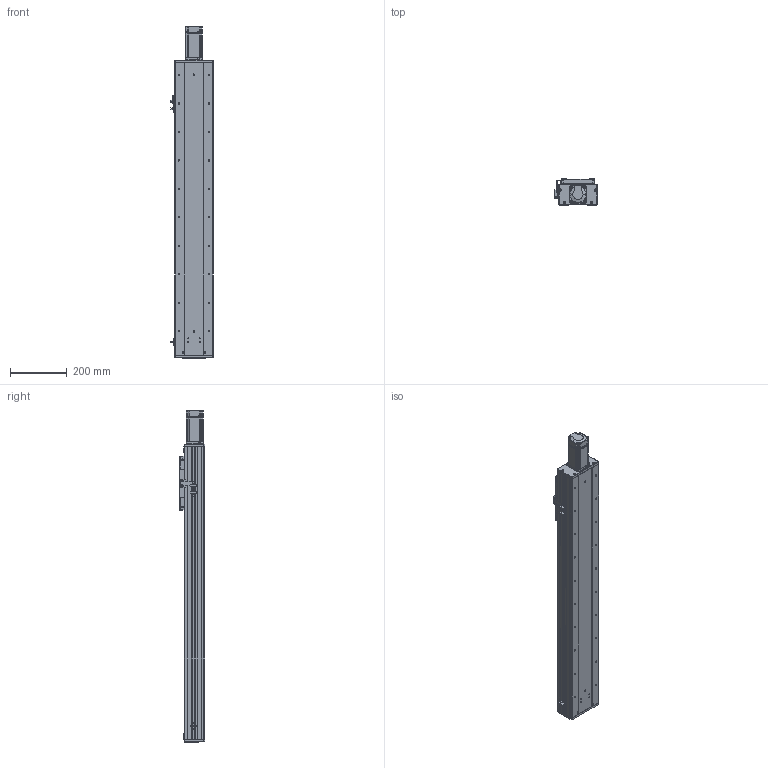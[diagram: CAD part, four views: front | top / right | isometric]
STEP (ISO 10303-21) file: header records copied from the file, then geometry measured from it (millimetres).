
FILE_DESCRIPTION (( 'STEP AP203' ), '1' );
FILE_NAME ('RY140F-L2020-300-MK.SLDASM_750.step', '2021-03-02T06:24:10', ( '盈信电脑' ), ( '东莞市道滘镇水果街19号' ), 'SwSTEP 2.0', 'SolidWorks 2012', '' );
FILE_SCHEMA (( 'CONFIG_CONTROL_DESIGN' ));
Length unit declared in the file: millimetre
Products named in the file (18): RY140F-L2020-300-MK.SLDASM_750; RY140F-詩湍揤え; RY140F-672覜茼んえ; 滅袉蝶18-10; 侐源滅袉蝶; 15; 覜茼ん672; 侂狟400W侜督萇儂; RY140F-后盖板(铝件）; RY140F-直连型材铝滑块(16丝杆); RY140F-詩湍幗謫粣; RY140F-直连前盖板(铝件）; RY100F-詩湍揤踡謫; RY140F-300-MK眻蟀倰第奻裔啣_750; RY140F-直连型材铝滑块连接座; RY140F-滅鳥奻裔; RY140F-300-MK眻蟀詩湍_750; RY140F-300-MK眻蟀倰第菁釱_750
Assembly tree (22 placements, depth 3):
  RY140F-L2020-300-MK.SLDASM_750
    RY140F-300-MK眻蟀倰第菁釱_750
    RY140F-300-MK眻蟀倰第奻裔啣_750  x2
    RY140F-300-MK眻蟀詩湍_750
    RY140F-直连型材铝滑块连接座
    RY140F-滅鳥奻裔
    RY140F-詩湍幗謫粣
    RY100F-詩湍揤踡謫
    RY140F-直连型材铝滑块(16丝杆)
    RY140F-直连前盖板(铝件）
    RY140F-后盖板(铝件）
    侂狟400W侜督萇儂
      15
    覜茼ん672  x3
    RY140F-672覜茼んえ
    RY140F-詩湍揤え  x2
    滅袉蝶18-10
    侐源滅袉蝶  x2
Bounding box: 148.7 x 91 x 1165.5 mm (x, y, z)
Volume: 4012467.6 mm3; surface area: 1384094.4 mm2
Topology: 21 solids, 21 shells, 1968 faces, 5413 edges, 3466 vertices
Faces by surface type: cylinder 898, plane 854, cone 194, bspline 18, torus 4
Entity records: 57038 total; most frequent: CARTESIAN_POINT 11431, DIRECTION 9312, ORIENTED_EDGE 8942, EDGE_CURVE 4471, AXIS2_PLACEMENT_3D 3335, VERTEX_POINT 2934, VECTOR 2642, LINE 2642
